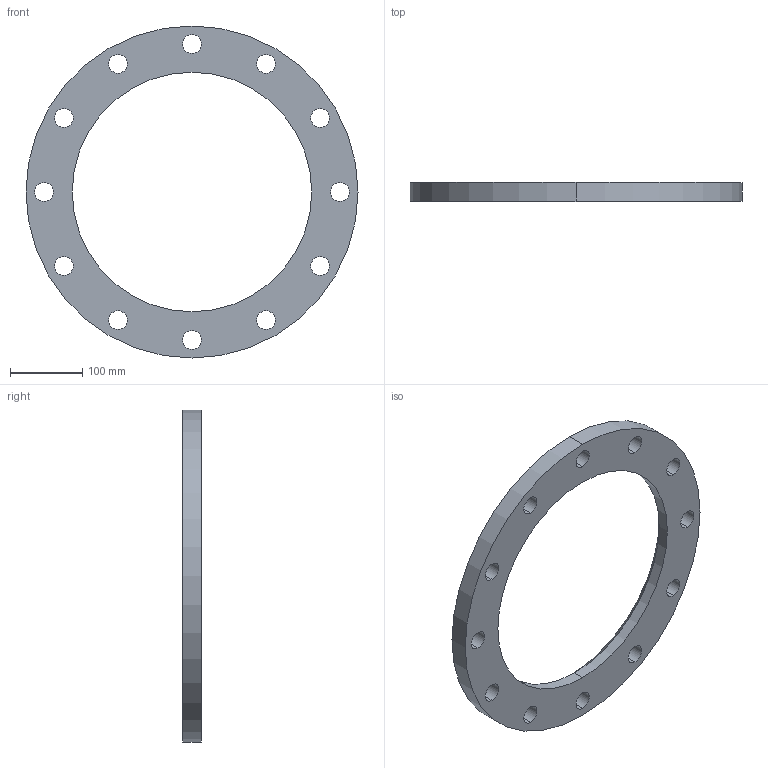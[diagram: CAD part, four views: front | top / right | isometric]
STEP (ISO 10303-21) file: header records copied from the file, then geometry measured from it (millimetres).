
FILE_DESCRIPTION (( 'STEP AP203' ), '1' );
FILE_NAME ('3D_R181-PN16_DN300_17606255.step', '2024-06-28T11:23:39', ( '' ), ( '' ), 'SwSTEP 2.0', 'SolidWorks 2024', '' );
FILE_SCHEMA (( 'CONFIG_CONTROL_DESIGN' ));
Length unit declared in the file: millimetre
Products named in the file (1): 3D_R181-PN16_DN300_17606255
Bounding box: 460 x 26 x 460 mm (x, y, z)
Volume: 1851286.1 mm3; surface area: 230695.3 mm2
Topology: 1 solids, 1 shells, 32 faces, 88 edges, 58 vertices
Faces by surface type: cylinder 28, cone 2, plane 2
Entity records: 1183 total; most frequent: DIRECTION 212, CARTESIAN_POINT 179, ORIENTED_EDGE 176, AXIS2_PLACEMENT_3D 91, EDGE_CURVE 88, VERTEX_POINT 58, CIRCLE 58, EDGE_LOOP 58
